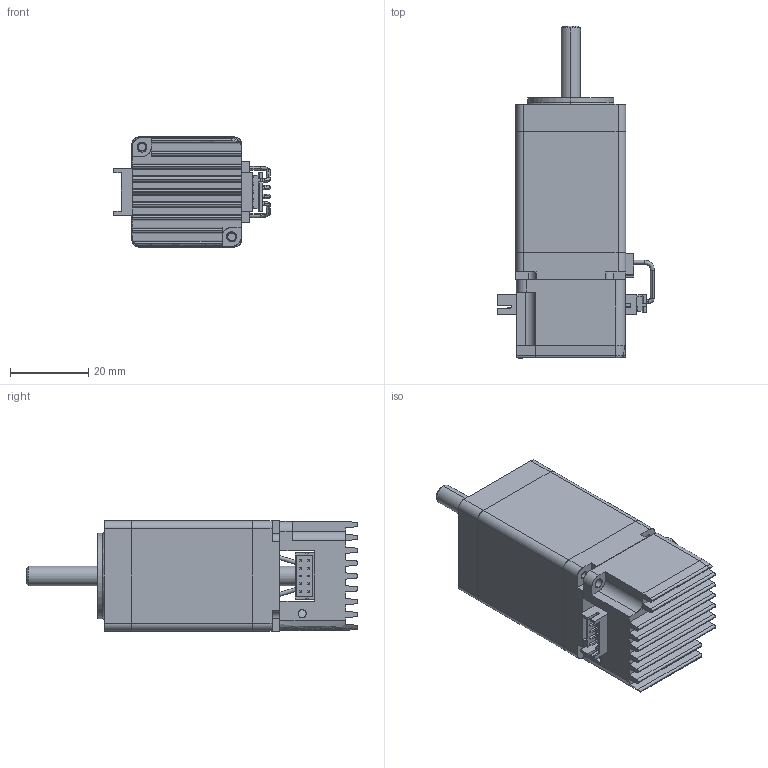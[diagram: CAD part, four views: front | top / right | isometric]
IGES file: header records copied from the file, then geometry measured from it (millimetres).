
Start section: SolidWorks IGES file using analytic representation for surfaces
Global section: file name: C:\Users\IEUser\Documents\Christine folder\Arcus\Project #23 DMX Drawings\DMX-K-DRV-11\DMX-K-DRV-11-2.IGS; native system: SolidWorks 2008; preprocessor: SolidWorks 2008; author: IEUser; date: 140210.222212; units: millimetre
Bounding box: 40.12 x 85 x 28.2 mm (x, y, z)
Surface area: 18770.8 mm2 (no closed solid volume)
Topology: 0 solids, 0 shells, 1025 faces, 7494 edges, 7482 vertices
Faces by surface type: bspline 834, revolution 191
